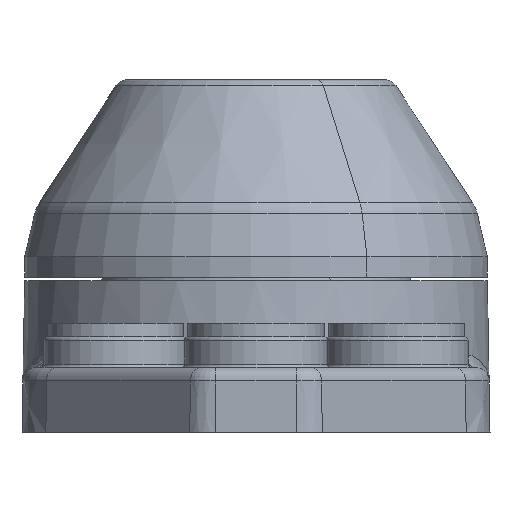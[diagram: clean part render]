
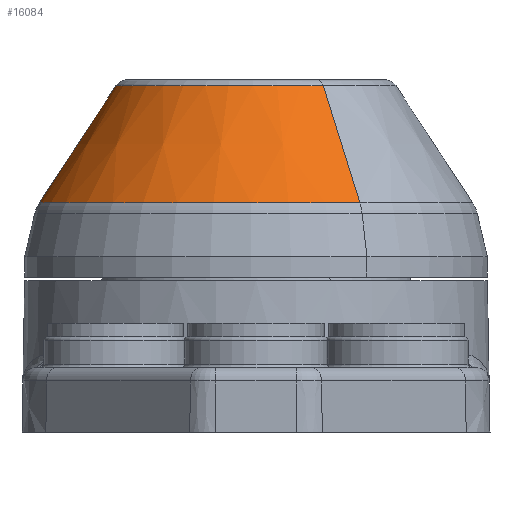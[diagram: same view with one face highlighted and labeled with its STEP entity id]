
A CAD part, front view. The second image highlights one B-rep face of the part: STEP entity #16084.
In plain terms, the highlighted conical face has half-angle 33.188 degrees and reference radius 20.592 mm.
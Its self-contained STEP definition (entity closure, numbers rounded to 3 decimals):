
#7976=EDGE_CURVE('',#20576,#20577,#20578,.T.);
#8742=EDGE_CURVE('',#21769,#21770,#21771,.F.);
#10172=EDGE_CURVE('',#21769,#20576,#23831,.F.);
#10862=EDGE_CURVE('',#21770,#20577,#24744,.F.);
#16084=ADVANCED_FACE('',(#31099),#31100,.T.);
#20576=VERTEX_POINT('',#37327);
#20577=VERTEX_POINT('',#37328);
#20578=CIRCLE('',#37329,20.592);
#21769=VERTEX_POINT('',#39043);
#21770=VERTEX_POINT('',#39044);
#21771=CIRCLE('',#39045,31.839);
#23831=LINE('',#42164,#42165);
#24744=LINE('',#43654,#43655);
#31099=FACE_OUTER_BOUND('',#53920,.T.);
#31100=CONICAL_SURFACE('',#53921,20.592,0.579);
#37327=CARTESIAN_POINT('',(-9.872,18.071,51.895));
#37328=CARTESIAN_POINT('',(9.872,-18.071,51.895));
#37329=AXIS2_PLACEMENT_3D('',#58964,#58965,#58966);
#39043=CARTESIAN_POINT('',(-15.265,27.942,34.7));
#39044=CARTESIAN_POINT('',(15.265,-27.942,34.7));
#39045=AXIS2_PLACEMENT_3D('',#60407,#60408,#60409);
#42164=CARTESIAN_POINT('',(-12.568,23.006,43.297));
#42165=VECTOR('',#62851,1.);
#43654=CARTESIAN_POINT('',(12.568,-23.006,43.297));
#43655=VECTOR('',#63948,1.);
#53920=EDGE_LOOP('',(#72738,#72739,#72740,#72741));
#53921=AXIS2_PLACEMENT_3D('',#72742,#72743,#72744);
#58964=CARTESIAN_POINT('',(0.0,0.0,51.895));
#58965=DIRECTION('',(0.0,0.0,1.0));
#58966=DIRECTION('',(1.0,0.0,0.0));
#60407=CARTESIAN_POINT('',(0.0,0.0,34.7));
#60408=DIRECTION('',(0.0,0.0,-1.0));
#60409=DIRECTION('',(1.0,0.0,0.0));
#62851=DIRECTION('',(-0.262,0.48,-0.837));
#63948=DIRECTION('',(0.262,-0.48,-0.837));
#72738=ORIENTED_EDGE('',*,*,#10862,.T.);
#72739=ORIENTED_EDGE('',*,*,#7976,.F.);
#72740=ORIENTED_EDGE('',*,*,#10172,.F.);
#72741=ORIENTED_EDGE('',*,*,#8742,.T.);
#72742=CARTESIAN_POINT('',(0.0,0.0,51.895));
#72743=DIRECTION('',(-0.0,-0.0,-1.0));
#72744=DIRECTION('',(-0.479,0.878,0.0));
